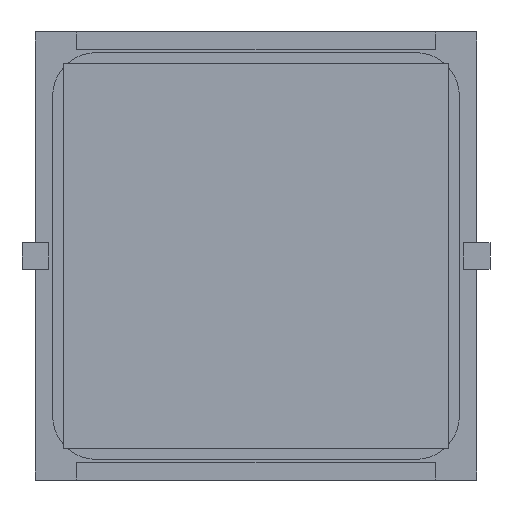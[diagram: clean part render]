
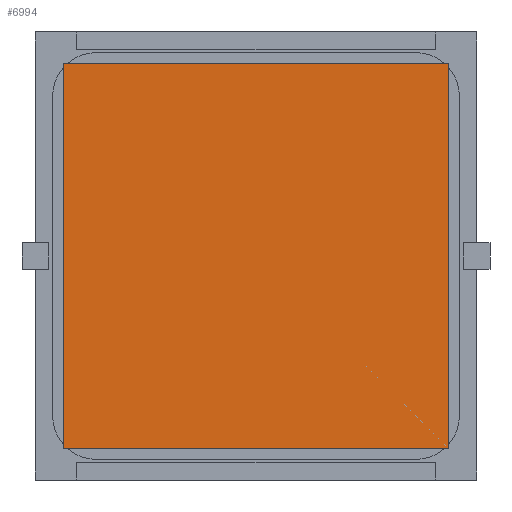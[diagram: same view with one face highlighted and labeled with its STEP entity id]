
A CAD part, front view. The second image highlights one B-rep face of the part: STEP entity #6994.
In plain terms, the highlighted planar face has unit normal (0, -1, 0).
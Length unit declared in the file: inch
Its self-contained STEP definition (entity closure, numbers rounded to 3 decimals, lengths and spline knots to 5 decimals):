
#63 = EDGE_CURVE ( 'NONE', #1218, #8417, #5780, .T. ) ;
#261 = LINE ( 'NONE', #8184, #1262 ) ;
#286 = VECTOR ( 'NONE', #2251, 39.37008 ) ;
#382 = VECTOR ( 'NONE', #8437, 39.37008 ) ;
#665 = VERTEX_POINT ( 'NONE', #3154 ) ;
#693 = VECTOR ( 'NONE', #4057, 39.37008 ) ;
#1159 = CARTESIAN_POINT ( 'NONE',  ( 0.57087, -0.005, -0.57087 ) ) ;
#1200 = CARTESIAN_POINT ( 'NONE',  ( -0.57087, -0.005, 0.57087 ) ) ;
#1218 = VERTEX_POINT ( 'NONE', #2313 ) ;
#1262 = VECTOR ( 'NONE', #1593, 39.37008 ) ;
#1280 = AXIS2_PLACEMENT_3D ( 'NONE', #4716, #4668, #6070 ) ;
#1593 = DIRECTION ( 'NONE',  ( 0., 0., 1. ) ) ;
#2050 = CARTESIAN_POINT ( 'NONE',  ( -0.57087, -0.005, -0.57087 ) ) ;
#2251 = DIRECTION ( 'NONE',  ( 0., 0., -1. ) ) ;
#2313 = CARTESIAN_POINT ( 'NONE',  ( -0.57087, -0.005, 0.57087 ) ) ;
#3154 = CARTESIAN_POINT ( 'NONE',  ( -0.57087, -0.005, -0.57087 ) ) ;
#3369 = ORIENTED_EDGE ( 'NONE', *, *, #4566, .F. ) ;
#3489 = ORIENTED_EDGE ( 'NONE', *, *, #8116, .F. ) ;
#3656 = LINE ( 'NONE', #4937, #286 ) ;
#4057 = DIRECTION ( 'NONE',  ( -1., 0., 0. ) ) ;
#4566 = EDGE_CURVE ( 'NONE', #8417, #8549, #3656, .T. ) ;
#4668 = DIRECTION ( 'NONE',  ( 0., 1., 0. ) ) ;
#4716 = CARTESIAN_POINT ( 'NONE',  ( -0.57087, -0.005, 0.57087 ) ) ;
#4937 = CARTESIAN_POINT ( 'NONE',  ( 0.57087, -0.005, -0.57087 ) ) ;
#5283 = LINE ( 'NONE', #2050, #693 ) ;
#5780 = LINE ( 'NONE', #1200, #382 ) ;
#5884 = EDGE_CURVE ( 'NONE', #665, #1218, #261, .T. ) ;
#6070 = DIRECTION ( 'NONE',  ( 0., 0., 1. ) ) ;
#6994 = ADVANCED_FACE ( 'NONE', ( #8430 ), #7727, .F. ) ;
#7727 = PLANE ( 'NONE',  #1280 ) ;
#8116 = EDGE_CURVE ( 'NONE', #8549, #665, #5283, .T. ) ;
#8139 = CARTESIAN_POINT ( 'NONE',  ( 0.57087, -0.005, 0.57087 ) ) ;
#8184 = CARTESIAN_POINT ( 'NONE',  ( -0.57087, -0.005, -0.57087 ) ) ;
#8236 = EDGE_LOOP ( 'NONE', ( #8446, #3489, #3369, #8253 ) ) ;
#8253 = ORIENTED_EDGE ( 'NONE', *, *, #63, .F. ) ;
#8417 = VERTEX_POINT ( 'NONE', #8139 ) ;
#8430 = FACE_OUTER_BOUND ( 'NONE', #8236, .T. ) ;
#8437 = DIRECTION ( 'NONE',  ( 1., 0., 0. ) ) ;
#8446 = ORIENTED_EDGE ( 'NONE', *, *, #5884, .F. ) ;
#8549 = VERTEX_POINT ( 'NONE', #1159 ) ;
